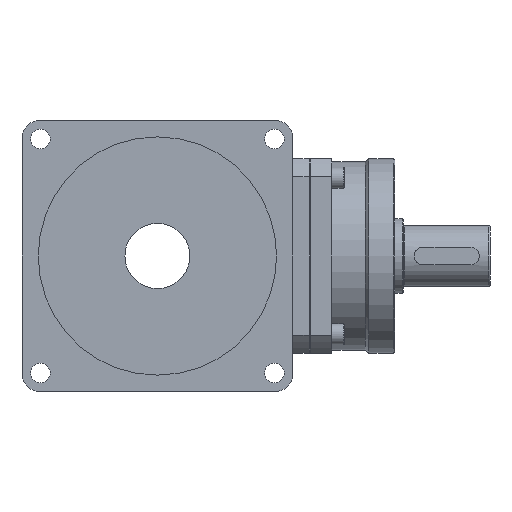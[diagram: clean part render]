
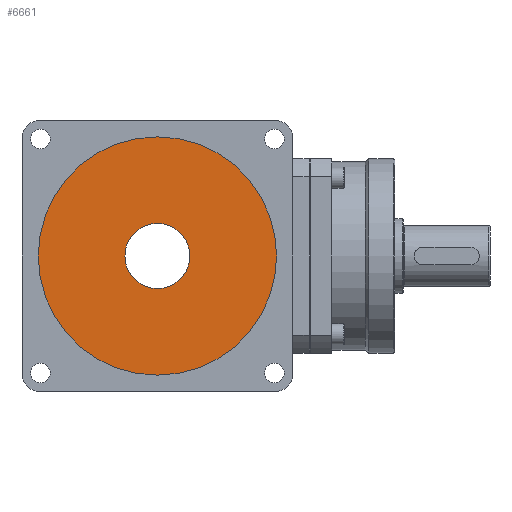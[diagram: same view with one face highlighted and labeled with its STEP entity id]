
A CAD part, left-side view. The second image highlights one B-rep face of the part: STEP entity #6661.
In plain terms, the highlighted planar face has unit normal (-1, 0, 0).
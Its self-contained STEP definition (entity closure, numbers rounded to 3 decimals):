
#262 = DIRECTION ( 'NONE',  ( -1., 0., 0. ) ) ;
#453 = CARTESIAN_POINT ( 'NONE',  ( -43., 0., 0. ) ) ;
#617 = PLANE ( 'NONE',  #10670 ) ;
#734 = CIRCLE ( 'NONE', #1847, 55. ) ;
#1033 = VERTEX_POINT ( 'NONE', #7931 ) ;
#1096 = CARTESIAN_POINT ( 'NONE',  ( -43., 0., 0. ) ) ;
#1847 = AXIS2_PLACEMENT_3D ( 'NONE', #13596, #8245, #7338 ) ;
#2270 = CARTESIAN_POINT ( 'NONE',  ( -43., 0., 55. ) ) ;
#2912 = VERTEX_POINT ( 'NONE', #2270 ) ;
#3565 = DIRECTION ( 'NONE',  ( 0., 0., 1. ) ) ;
#4281 = ORIENTED_EDGE ( 'NONE', *, *, #4646, .T. ) ;
#4448 = VERTEX_POINT ( 'NONE', #10382 ) ;
#4646 = EDGE_CURVE ( 'NONE', #1033, #2912, #9005, .T. ) ;
#5121 = ORIENTED_EDGE ( 'NONE', *, *, #12783, .T. ) ;
#6491 = AXIS2_PLACEMENT_3D ( 'NONE', #1096, #8416, #7168 ) ;
#6524 = ORIENTED_EDGE ( 'NONE', *, *, #11045, .F. ) ;
#6625 = DIRECTION ( 'NONE',  ( 0., 0., 1. ) ) ;
#6661 = ADVANCED_FACE ( 'NONE', ( #9178, #13419 ), #617, .T. ) ;
#6712 = CIRCLE ( 'NONE', #6491, 15. ) ;
#7011 = AXIS2_PLACEMENT_3D ( 'NONE', #453, #8873, #3565 ) ;
#7168 = DIRECTION ( 'NONE',  ( 0., 0., 1. ) ) ;
#7338 = DIRECTION ( 'NONE',  ( 0., 0., 1. ) ) ;
#7660 = EDGE_LOOP ( 'NONE', ( #11101, #6524 ) ) ;
#7931 = CARTESIAN_POINT ( 'NONE',  ( -43., 0., -55. ) ) ;
#8082 = EDGE_LOOP ( 'NONE', ( #5121, #4281 ) ) ;
#8136 = DIRECTION ( 'NONE',  ( 0., 0., 1. ) ) ;
#8245 = DIRECTION ( 'NONE',  ( -1., 0., 0. ) ) ;
#8416 = DIRECTION ( 'NONE',  ( -1., 0., 0. ) ) ;
#8873 = DIRECTION ( 'NONE',  ( -1., 0., 0. ) ) ;
#9005 = CIRCLE ( 'NONE', #7011, 55. ) ;
#9178 = FACE_BOUND ( 'NONE', #7660, .T. ) ;
#9662 = CARTESIAN_POINT ( 'NONE',  ( -43., 0., 0. ) ) ;
#10000 = DIRECTION ( 'NONE',  ( -1., 0., 0. ) ) ;
#10270 = CARTESIAN_POINT ( 'NONE',  ( -43., 0., 0. ) ) ;
#10382 = CARTESIAN_POINT ( 'NONE',  ( -43., 0., 15. ) ) ;
#10670 = AXIS2_PLACEMENT_3D ( 'NONE', #10270, #10000, #8136 ) ;
#10899 = AXIS2_PLACEMENT_3D ( 'NONE', #9662, #262, #6625 ) ;
#11045 = EDGE_CURVE ( 'NONE', #4448, #13642, #11543, .T. ) ;
#11101 = ORIENTED_EDGE ( 'NONE', *, *, #11328, .F. ) ;
#11328 = EDGE_CURVE ( 'NONE', #13642, #4448, #6712, .T. ) ;
#11543 = CIRCLE ( 'NONE', #10899, 15. ) ;
#12115 = CARTESIAN_POINT ( 'NONE',  ( -43., 0., -15. ) ) ;
#12783 = EDGE_CURVE ( 'NONE', #2912, #1033, #734, .T. ) ;
#13419 = FACE_OUTER_BOUND ( 'NONE', #8082, .T. ) ;
#13596 = CARTESIAN_POINT ( 'NONE',  ( -43., 0., 0. ) ) ;
#13642 = VERTEX_POINT ( 'NONE', #12115 ) ;
